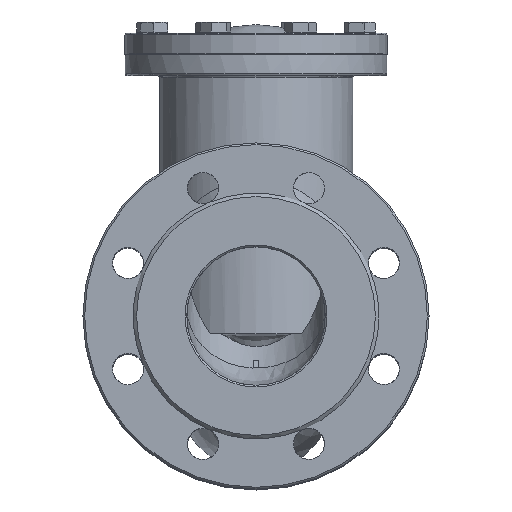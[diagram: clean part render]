
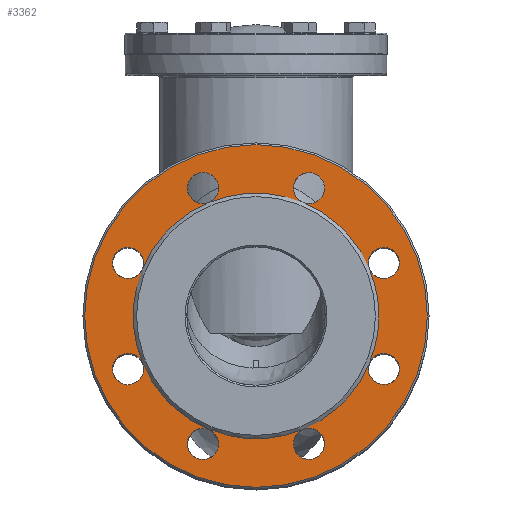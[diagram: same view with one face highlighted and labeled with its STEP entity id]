
A CAD part, top view. The second image highlights one B-rep face of the part: STEP entity #3362.
In plain terms, the highlighted planar face has unit normal (0, 0, 1).
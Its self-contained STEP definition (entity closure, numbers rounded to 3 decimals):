
#3362=ADVANCED_FACE('',(#8729,#8731,#8733,#8735,#8737,#8739,#8741,#8743,#8745,#8747),
#8749,.T.);
#8729=FACE_BOUND('',#8730,.T.);
#8730=EDGE_LOOP('',(#10747));
#8731=FACE_BOUND('',#8732,.T.);
#8732=EDGE_LOOP('',(#10748));
#8733=FACE_BOUND('',#8734,.T.);
#8734=EDGE_LOOP('',(#10749,#10750,#10751,#10752,#10753,#10754,#10755,#10756));
#8735=FACE_BOUND('',#8736,.T.);
#8736=EDGE_LOOP('',(#10757,#10758));
#8737=FACE_BOUND('',#8738,.T.);
#8738=EDGE_LOOP('',(#10759,#10760));
#8739=FACE_BOUND('',#8740,.T.);
#8740=EDGE_LOOP('',(#10761,#10762));
#8741=FACE_BOUND('',#8742,.T.);
#8742=EDGE_LOOP('',(#10763,#10764));
#8743=FACE_BOUND('',#8744,.T.);
#8744=EDGE_LOOP('',(#10765,#10766));
#8745=FACE_BOUND('',#8746,.T.);
#8746=EDGE_LOOP('',(#10767,#10768));
#8747=FACE_BOUND('',#8748,.T.);
#8748=EDGE_LOOP('',(#10769,#10770));
#8749=PLANE('',#8750);
#8750=AXIS2_PLACEMENT_3D('',#8751,#8752,#8753);
#8751=CARTESIAN_POINT('',(0.,0.,150.755));
#8752=DIRECTION('',(0.,0.,1.));
#8753=DIRECTION('',(1.,0.,0.));
#10747=ORIENTED_EDGE('',*,*,#11696,.F.);
#10748=ORIENTED_EDGE('',*,*,#11678,.T.);
#10749=ORIENTED_EDGE('',*,*,#11697,.F.);
#10750=ORIENTED_EDGE('',*,*,#11698,.F.);
#10751=ORIENTED_EDGE('',*,*,#11699,.F.);
#10752=ORIENTED_EDGE('',*,*,#11700,.F.);
#10753=ORIENTED_EDGE('',*,*,#11701,.F.);
#10754=ORIENTED_EDGE('',*,*,#11702,.F.);
#10755=ORIENTED_EDGE('',*,*,#11703,.F.);
#10756=ORIENTED_EDGE('',*,*,#11704,.F.);
#10757=ORIENTED_EDGE('',*,*,#11691,.T.);
#10758=ORIENTED_EDGE('',*,*,#11692,.T.);
#10759=ORIENTED_EDGE('',*,*,#11689,.T.);
#10760=ORIENTED_EDGE('',*,*,#11690,.T.);
#10761=ORIENTED_EDGE('',*,*,#11687,.T.);
#10762=ORIENTED_EDGE('',*,*,#11688,.T.);
#10763=ORIENTED_EDGE('',*,*,#11685,.T.);
#10764=ORIENTED_EDGE('',*,*,#11686,.T.);
#10765=ORIENTED_EDGE('',*,*,#11683,.T.);
#10766=ORIENTED_EDGE('',*,*,#11684,.T.);
#10767=ORIENTED_EDGE('',*,*,#11681,.T.);
#10768=ORIENTED_EDGE('',*,*,#11682,.T.);
#10769=ORIENTED_EDGE('',*,*,#11679,.T.);
#10770=ORIENTED_EDGE('',*,*,#11680,.T.);
#11678=EDGE_CURVE('',#13079,#13079,#13080,.T.);
#11679=EDGE_CURVE('',#13081,#13082,#13083,.T.);
#11680=EDGE_CURVE('',#13082,#13081,#13084,.T.);
#11681=EDGE_CURVE('',#13085,#13086,#13087,.T.);
#11682=EDGE_CURVE('',#13086,#13085,#13088,.T.);
#11683=EDGE_CURVE('',#13089,#13090,#13091,.T.);
#11684=EDGE_CURVE('',#13090,#13089,#13092,.T.);
#11685=EDGE_CURVE('',#13093,#13094,#13095,.T.);
#11686=EDGE_CURVE('',#13094,#13093,#13096,.T.);
#11687=EDGE_CURVE('',#13097,#13098,#13099,.T.);
#11688=EDGE_CURVE('',#13098,#13097,#13100,.T.);
#11689=EDGE_CURVE('',#13101,#13102,#13103,.T.);
#11690=EDGE_CURVE('',#13102,#13101,#13104,.T.);
#11691=EDGE_CURVE('',#13105,#13106,#13107,.T.);
#11692=EDGE_CURVE('',#13106,#13105,#13108,.T.);
#11696=EDGE_CURVE('',#13115,#13115,#13116,.T.);
#11697=EDGE_CURVE('',#13101,#13105,#13117,.T.);
#11698=EDGE_CURVE('',#13097,#13101,#13118,.T.);
#11699=EDGE_CURVE('',#13093,#13097,#13119,.T.);
#11700=EDGE_CURVE('',#13089,#13093,#13120,.T.);
#11701=EDGE_CURVE('',#13085,#13089,#13121,.T.);
#11702=EDGE_CURVE('',#13081,#13085,#13122,.T.);
#11703=EDGE_CURVE('',#13123,#13081,#13124,.T.);
#11704=EDGE_CURVE('',#13105,#13123,#13125,.T.);
#13079=VERTEX_POINT('',#24311);
#13080=CIRCLE('',#24312,9.);
#13081=VERTEX_POINT('',#24316);
#13082=VERTEX_POINT('',#24317);
#13083=CIRCLE('',#24318,9.);
#13084=CIRCLE('',#24322,9.);
#13085=VERTEX_POINT('',#24326);
#13086=VERTEX_POINT('',#24327);
#13087=CIRCLE('',#24328,9.);
#13088=CIRCLE('',#24332,9.);
#13089=VERTEX_POINT('',#24336);
#13090=VERTEX_POINT('',#24337);
#13091=CIRCLE('',#24338,9.);
#13092=CIRCLE('',#24342,9.);
#13093=VERTEX_POINT('',#24346);
#13094=VERTEX_POINT('',#24347);
#13095=CIRCLE('',#24348,9.);
#13096=CIRCLE('',#24352,9.);
#13097=VERTEX_POINT('',#24356);
#13098=VERTEX_POINT('',#24357);
#13099=CIRCLE('',#24358,9.);
#13100=CIRCLE('',#24362,9.);
#13101=VERTEX_POINT('',#24366);
#13102=VERTEX_POINT('',#24367);
#13103=CIRCLE('',#24368,9.);
#13104=CIRCLE('',#24372,9.);
#13105=VERTEX_POINT('',#24376);
#13106=VERTEX_POINT('',#24377);
#13107=CIRCLE('',#24378,9.);
#13108=CIRCLE('',#24382,9.);
#13115=VERTEX_POINT('',#24401);
#13116=CIRCLE('',#24402,99.);
#13117=CIRCLE('',#24406,71.);
#13118=CIRCLE('',#24410,71.);
#13119=CIRCLE('',#24414,71.);
#13120=CIRCLE('',#24418,71.);
#13121=CIRCLE('',#24422,71.);
#13122=CIRCLE('',#24426,71.);
#13123=VERTEX_POINT('',#24430);
#13124=CIRCLE('',#24431,71.);
#13125=CIRCLE('',#24435,71.);
#24311=CARTESIAN_POINT('',(82.91,-30.615,150.755));
#24312=AXIS2_PLACEMENT_3D('',#24313,#24314,#24315);
#24313=CARTESIAN_POINT('',(73.91,-30.615,150.755));
#24314=DIRECTION('',(0.,0.,-1.));
#24315=DIRECTION('',(1.,0.,0.));
#24316=CARTESIAN_POINT('',(65.595,27.171,150.755));
#24317=CARTESIAN_POINT('',(82.91,30.615,150.755));
#24318=AXIS2_PLACEMENT_3D('',#24319,#24320,#24321);
#24319=CARTESIAN_POINT('',(73.91,30.615,150.755));
#24320=DIRECTION('',(0.,0.,-1.));
#24321=DIRECTION('',(-0.924,-0.383,0.));
#24322=AXIS2_PLACEMENT_3D('',#24323,#24324,#24325);
#24323=CARTESIAN_POINT('',(73.91,30.615,150.755));
#24324=DIRECTION('',(0.,0.,-1.));
#24325=DIRECTION('',(1.,0.,0.));
#24326=CARTESIAN_POINT('',(27.171,65.595,150.755));
#24327=CARTESIAN_POINT('',(39.615,73.91,150.755));
#24328=AXIS2_PLACEMENT_3D('',#24329,#24330,#24331);
#24329=CARTESIAN_POINT('',(30.615,73.91,150.755));
#24330=DIRECTION('',(0.,0.,-1.));
#24331=DIRECTION('',(-0.383,-0.924,0.));
#24332=AXIS2_PLACEMENT_3D('',#24333,#24334,#24335);
#24333=CARTESIAN_POINT('',(30.615,73.91,150.755));
#24334=DIRECTION('',(0.,0.,-1.));
#24335=DIRECTION('',(1.,0.,0.));
#24336=CARTESIAN_POINT('',(-27.171,65.595,150.755));
#24337=CARTESIAN_POINT('',(-21.615,73.91,150.755));
#24338=AXIS2_PLACEMENT_3D('',#24339,#24340,#24341);
#24339=CARTESIAN_POINT('',(-30.615,73.91,150.755));
#24340=DIRECTION('',(0.,0.,-1.));
#24341=DIRECTION('',(0.383,-0.924,0.));
#24342=AXIS2_PLACEMENT_3D('',#24343,#24344,#24345);
#24343=CARTESIAN_POINT('',(-30.615,73.91,150.755));
#24344=DIRECTION('',(0.,0.,-1.));
#24345=DIRECTION('',(1.,0.,0.));
#24346=CARTESIAN_POINT('',(-65.595,27.171,150.755));
#24347=CARTESIAN_POINT('',(-64.91,30.615,150.755));
#24348=AXIS2_PLACEMENT_3D('',#24349,#24350,#24351);
#24349=CARTESIAN_POINT('',(-73.91,30.615,150.755));
#24350=DIRECTION('',(0.,0.,-1.));
#24351=DIRECTION('',(0.924,-0.383,0.));
#24352=AXIS2_PLACEMENT_3D('',#24353,#24354,#24355);
#24353=CARTESIAN_POINT('',(-73.91,30.615,150.755));
#24354=DIRECTION('',(0.,0.,-1.));
#24355=DIRECTION('',(1.,0.,0.));
#24356=CARTESIAN_POINT('',(-65.595,-27.171,150.755));
#24357=CARTESIAN_POINT('',(-64.91,-30.615,150.755));
#24358=AXIS2_PLACEMENT_3D('',#24359,#24360,#24361);
#24359=CARTESIAN_POINT('',(-73.91,-30.615,150.755));
#24360=DIRECTION('',(0.,0.,-1.));
#24361=DIRECTION('',(0.924,0.383,0.));
#24362=AXIS2_PLACEMENT_3D('',#24363,#24364,#24365);
#24363=CARTESIAN_POINT('',(-73.91,-30.615,150.755));
#24364=DIRECTION('',(0.,0.,-1.));
#24365=DIRECTION('',(1.,0.,0.));
#24366=CARTESIAN_POINT('',(-27.171,-65.595,150.755));
#24367=CARTESIAN_POINT('',(-21.615,-73.91,150.755));
#24368=AXIS2_PLACEMENT_3D('',#24369,#24370,#24371);
#24369=CARTESIAN_POINT('',(-30.615,-73.91,150.755));
#24370=DIRECTION('',(0.,0.,-1.));
#24371=DIRECTION('',(0.383,0.924,0.));
#24372=AXIS2_PLACEMENT_3D('',#24373,#24374,#24375);
#24373=CARTESIAN_POINT('',(-30.615,-73.91,150.755));
#24374=DIRECTION('',(0.,0.,-1.));
#24375=DIRECTION('',(1.,0.,0.));
#24376=CARTESIAN_POINT('',(27.171,-65.595,150.755));
#24377=CARTESIAN_POINT('',(39.615,-73.91,150.755));
#24378=AXIS2_PLACEMENT_3D('',#24379,#24380,#24381);
#24379=CARTESIAN_POINT('',(30.615,-73.91,150.755));
#24380=DIRECTION('',(0.,0.,-1.));
#24381=DIRECTION('',(-0.383,0.924,0.));
#24382=AXIS2_PLACEMENT_3D('',#24383,#24384,#24385);
#24383=CARTESIAN_POINT('',(30.615,-73.91,150.755));
#24384=DIRECTION('',(0.,0.,-1.));
#24385=DIRECTION('',(1.,0.,0.));
#24401=CARTESIAN_POINT('',(99.,0.,150.755));
#24402=AXIS2_PLACEMENT_3D('',#24403,#24404,#24405);
#24403=CARTESIAN_POINT('',(0.,0.,150.755));
#24404=DIRECTION('',(0.,0.,-1.));
#24405=DIRECTION('',(1.,0.,0.));
#24406=AXIS2_PLACEMENT_3D('',#24407,#24408,#24409);
#24407=CARTESIAN_POINT('',(0.,0.,150.755));
#24408=DIRECTION('',(0.,0.,1.));
#24409=DIRECTION('',(-0.383,-0.924,0.));
#24410=AXIS2_PLACEMENT_3D('',#24411,#24412,#24413);
#24411=CARTESIAN_POINT('',(0.,0.,150.755));
#24412=DIRECTION('',(0.,0.,1.));
#24413=DIRECTION('',(-0.924,-0.383,0.));
#24414=AXIS2_PLACEMENT_3D('',#24415,#24416,#24417);
#24415=CARTESIAN_POINT('',(0.,0.,150.755));
#24416=DIRECTION('',(0.,0.,1.));
#24417=DIRECTION('',(-0.924,0.383,0.));
#24418=AXIS2_PLACEMENT_3D('',#24419,#24420,#24421);
#24419=CARTESIAN_POINT('',(0.,0.,150.755));
#24420=DIRECTION('',(0.,0.,1.));
#24421=DIRECTION('',(-0.383,0.924,0.));
#24422=AXIS2_PLACEMENT_3D('',#24423,#24424,#24425);
#24423=CARTESIAN_POINT('',(0.,0.,150.755));
#24424=DIRECTION('',(0.,0.,1.));
#24425=DIRECTION('',(0.383,0.924,0.));
#24426=AXIS2_PLACEMENT_3D('',#24427,#24428,#24429);
#24427=CARTESIAN_POINT('',(0.,0.,150.755));
#24428=DIRECTION('',(0.,0.,1.));
#24429=DIRECTION('',(0.924,0.383,0.));
#24430=CARTESIAN_POINT('',(71.,0.,150.755));
#24431=AXIS2_PLACEMENT_3D('',#24432,#24433,#24434);
#24432=CARTESIAN_POINT('',(0.,0.,150.755));
#24433=DIRECTION('',(0.,0.,1.));
#24434=DIRECTION('',(1.,0.,0.));
#24435=AXIS2_PLACEMENT_3D('',#24436,#24437,#24438);
#24436=CARTESIAN_POINT('',(0.,0.,150.755));
#24437=DIRECTION('',(0.,0.,1.));
#24438=DIRECTION('',(0.383,-0.924,0.));
